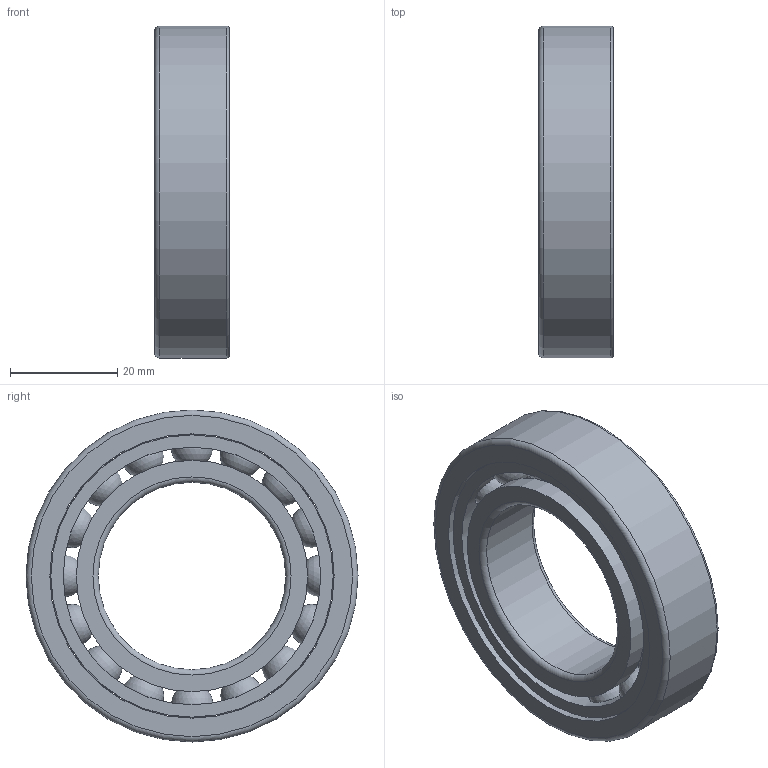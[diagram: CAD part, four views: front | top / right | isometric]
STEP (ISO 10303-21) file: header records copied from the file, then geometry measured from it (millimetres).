
FILE_DESCRIPTION(/* description */ (''),/* implementation_level */ '2;1');
FILE_NAME(/* name */ 'SM_6007_TA.step',/* time_stamp */ '2013-03-11T11:34:23+01:00',/* author */ ('Marian'),/* organization */ ('GMN'),/* preprocessor_version */ 'ST-DEVELOPER v11',/* originating_system */ 'SIEMENS UGS NX 6.0',/* authorisation */ '');
FILE_SCHEMA (('CONFIG_CONTROL_DESIGN'));
Length unit declared in the file: millimetre
Products named in the file (1): SM_6007_TA
Bounding box: 14 x 62 x 62 mm (x, y, z)
Volume: 21498.5 mm3; surface area: 17823.9 mm2
Topology: 19 solids, 19 shells, 52 faces, 134 edges, 86 vertices
Faces by surface type: cylinder 23, sphere 16, torus 6, plane 6, cone 1
Full cylindrical faces by diameter (mm): 8.138 x16, 35 x1, 43.2 x2, 48.098 x1, 52.7 x1, 53.1 x1, 62 x1
Entity records: 2962 total; most frequent: CARTESIAN_POINT 1997, DIRECTION 146, FACE_BOUND 120, EDGE_LOOP 104, ORIENTED_EDGE 104, AXIS2_PLACEMENT_3D 73, VERTEX_POINT 68, EDGE_CURVE 52
